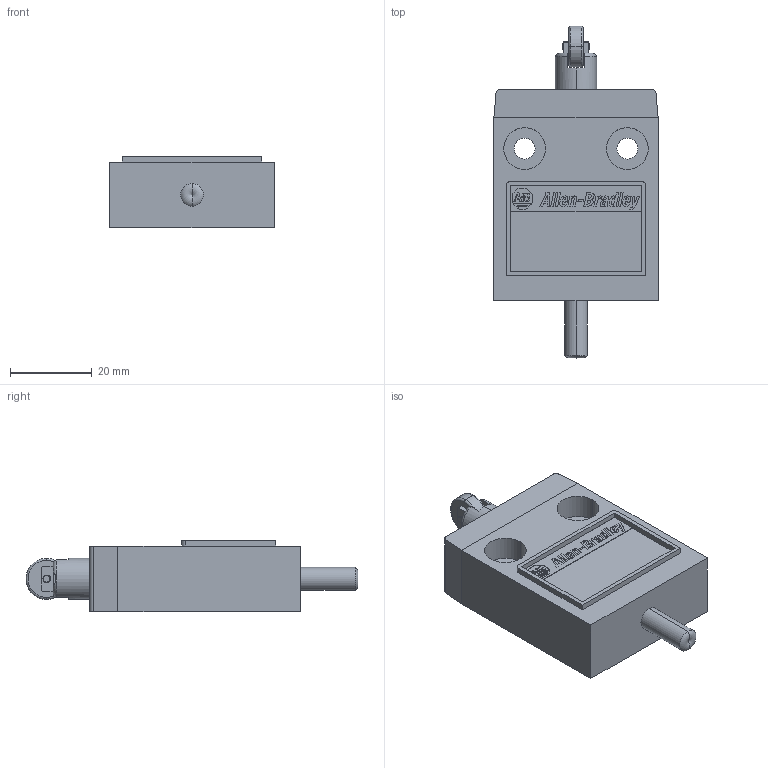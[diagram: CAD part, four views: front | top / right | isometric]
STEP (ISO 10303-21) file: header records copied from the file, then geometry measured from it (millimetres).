
FILE_DESCRIPTION (( 'STEP AP214' ), '1' );
FILE_NAME ('802B-CPAD1XSXC3.STEP', '2009-09-23T12:31:21', ( ' ' ), ( ' ' ), 'SwSTEP 2.0', 'SolidWorks 2007', '' );
FILE_SCHEMA (( 'AUTOMOTIVE_DESIGN' ));
Length unit declared in the file: millimetre
Products named in the file (1): 802B-CPAD1XSXC3
Bounding box: 40.07 x 81 x 17.4 mm (x, y, z)
Volume: 32935.3 mm3; surface area: 10596.6 mm2
Topology: 21 solids, 21 shells, 598 faces, 1650 edges, 1097 vertices
Faces by surface type: plane 562, cylinder 28, torus 8
Entity records: 25621 total; most frequent: CARTESIAN_POINT 3416, ORIENTED_EDGE 3296, DIRECTION 2916, EDGE_CURVE 1648, LINE 1566, VECTOR 1566, VERTEX_POINT 1097, AXIS2_PLACEMENT_3D 675
